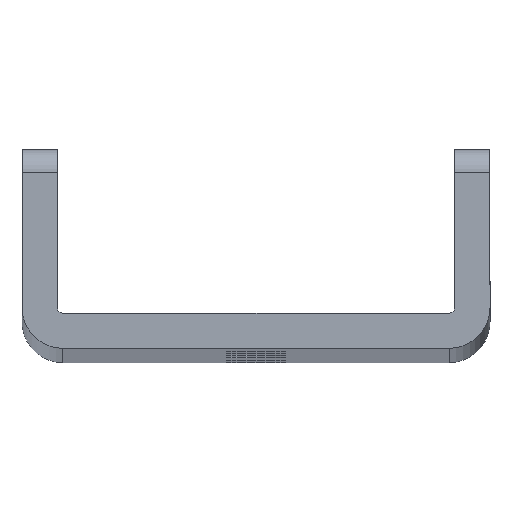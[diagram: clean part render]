
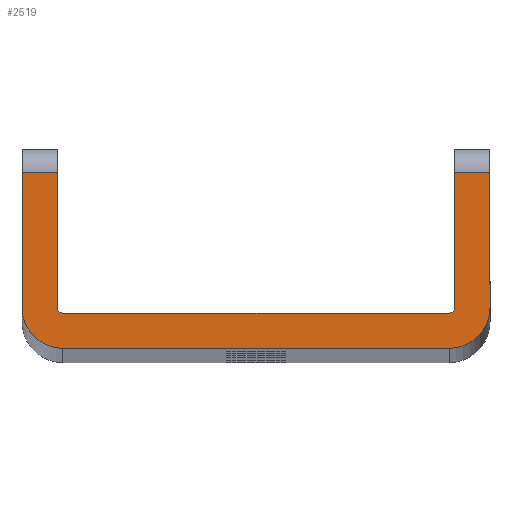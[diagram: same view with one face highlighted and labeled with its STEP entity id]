
A CAD part, top view. The second image highlights one B-rep face of the part: STEP entity #2519.
In plain terms, the highlighted planar face has unit normal (0, 0, 1).
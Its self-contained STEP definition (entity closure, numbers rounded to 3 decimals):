
#79 = CARTESIAN_POINT ( 'NONE',  ( -16.5, 0., 700. ) ) ;
#184 = ORIENTED_EDGE ( 'NONE', *, *, #2489, .T. ) ;
#224 = CARTESIAN_POINT ( 'NONE',  ( 17., 3.5, 700. ) ) ;
#276 = CARTESIAN_POINT ( 'NONE',  ( -17., 17., 700. ) ) ;
#297 = VERTEX_POINT ( 'NONE', #502 ) ;
#329 = DIRECTION ( 'NONE',  ( -1., 0., 0. ) ) ;
#346 = CARTESIAN_POINT ( 'NONE',  ( 17., 3.5, 700. ) ) ;
#349 = LINE ( 'NONE', #224, #3275 ) ;
#391 = DIRECTION ( 'NONE',  ( -1., 0., 0. ) ) ;
#459 = AXIS2_PLACEMENT_3D ( 'NONE', #1371, #2144, #3177 ) ;
#502 = CARTESIAN_POINT ( 'NONE',  ( -20., 3.5, 700. ) ) ;
#539 = VERTEX_POINT ( 'NONE', #624 ) ;
#601 = DIRECTION ( 'NONE',  ( -1., 0., 0. ) ) ;
#614 = CARTESIAN_POINT ( 'NONE',  ( 16.5, 0., 700. ) ) ;
#624 = CARTESIAN_POINT ( 'NONE',  ( 17., 15., 700. ) ) ;
#643 = ORIENTED_EDGE ( 'NONE', *, *, #1169, .T. ) ;
#670 = VERTEX_POINT ( 'NONE', #346 ) ;
#693 = EDGE_CURVE ( 'NONE', #1224, #2869, #1576, .T. ) ;
#712 = EDGE_CURVE ( 'NONE', #1820, #539, #1835, .T. ) ;
#732 = VECTOR ( 'NONE', #3091, 1000. ) ;
#755 = ORIENTED_EDGE ( 'NONE', *, *, #1618, .T. ) ;
#763 = CARTESIAN_POINT ( 'NONE',  ( -20., 15., 700. ) ) ;
#805 = ORIENTED_EDGE ( 'NONE', *, *, #3151, .T. ) ;
#833 = DIRECTION ( 'NONE',  ( 0., -1., 0. ) ) ;
#881 = ORIENTED_EDGE ( 'NONE', *, *, #712, .T. ) ;
#943 = CARTESIAN_POINT ( 'NONE',  ( 16.5, 3., 700. ) ) ;
#1007 = VERTEX_POINT ( 'NONE', #2099 ) ;
#1014 = VECTOR ( 'NONE', #833, 1000. ) ;
#1036 = EDGE_CURVE ( 'NONE', #539, #670, #349, .T. ) ;
#1044 = CARTESIAN_POINT ( 'NONE',  ( 16.5, 3.5, 700. ) ) ;
#1063 = DIRECTION ( 'NONE',  ( -1., 0., 0. ) ) ;
#1072 = CARTESIAN_POINT ( 'NONE',  ( 20., 15., 700. ) ) ;
#1147 = CARTESIAN_POINT ( 'NONE',  ( -16.5, 3., 700. ) ) ;
#1169 = EDGE_CURVE ( 'NONE', #1447, #1274, #1649, .T. ) ;
#1224 = VERTEX_POINT ( 'NONE', #943 ) ;
#1274 = VERTEX_POINT ( 'NONE', #763 ) ;
#1280 = CARTESIAN_POINT ( 'NONE',  ( -16.5, 3.5, 700. ) ) ;
#1294 = VERTEX_POINT ( 'NONE', #2031 ) ;
#1297 = ORIENTED_EDGE ( 'NONE', *, *, #693, .T. ) ;
#1371 = CARTESIAN_POINT ( 'NONE',  ( 16.5, 3.5, 700. ) ) ;
#1374 = CARTESIAN_POINT ( 'NONE',  ( -20., 15., 700. ) ) ;
#1435 = CARTESIAN_POINT ( 'NONE',  ( -16.5, 3.5, 700. ) ) ;
#1447 = VERTEX_POINT ( 'NONE', #2478 ) ;
#1562 = ORIENTED_EDGE ( 'NONE', *, *, #2450, .T. ) ;
#1574 = ORIENTED_EDGE ( 'NONE', *, *, #1036, .T. ) ;
#1576 = LINE ( 'NONE', #1147, #3124 ) ;
#1586 = CIRCLE ( 'NONE', #3277, 0.5 ) ;
#1618 = EDGE_CURVE ( 'NONE', #297, #3035, #2383, .T. ) ;
#1619 = LINE ( 'NONE', #1920, #2902 ) ;
#1649 = LINE ( 'NONE', #1374, #2526 ) ;
#1657 = ORIENTED_EDGE ( 'NONE', *, *, #1933, .T. ) ;
#1659 = VERTEX_POINT ( 'NONE', #2821 ) ;
#1663 = EDGE_CURVE ( 'NONE', #1294, #1659, #1908, .T. ) ;
#1685 = PLANE ( 'NONE',  #2740 ) ;
#1694 = DIRECTION ( 'NONE',  ( 0., 0., 1. ) ) ;
#1772 = VECTOR ( 'NONE', #1966, 1000. ) ;
#1778 = DIRECTION ( 'NONE',  ( 0., 0., 1. ) ) ;
#1820 = VERTEX_POINT ( 'NONE', #1072 ) ;
#1824 = LINE ( 'NONE', #2085, #1014 ) ;
#1835 = LINE ( 'NONE', #3112, #2117 ) ;
#1908 = CIRCLE ( 'NONE', #2651, 3.5 ) ;
#1920 = CARTESIAN_POINT ( 'NONE',  ( 20., 17., 700. ) ) ;
#1933 = EDGE_CURVE ( 'NONE', #1007, #1447, #3288, .T. ) ;
#1966 = DIRECTION ( 'NONE',  ( 1., 0., 0. ) ) ;
#1973 = FACE_OUTER_BOUND ( 'NONE', #2305, .T. ) ;
#1994 = DIRECTION ( 'NONE',  ( 1., 0., 0. ) ) ;
#2031 = CARTESIAN_POINT ( 'NONE',  ( 16.5, 0., 700. ) ) ;
#2085 = CARTESIAN_POINT ( 'NONE',  ( -20., 3.5, 700. ) ) ;
#2099 = CARTESIAN_POINT ( 'NONE',  ( -17., 3.5, 700. ) ) ;
#2117 = VECTOR ( 'NONE', #329, 1000. ) ;
#2144 = DIRECTION ( 'NONE',  ( 0., 0., -1. ) ) ;
#2177 = DIRECTION ( 'NONE',  ( 0., 1., 0. ) ) ;
#2184 = CARTESIAN_POINT ( 'NONE',  ( -16.5, 3., 700. ) ) ;
#2198 = ORIENTED_EDGE ( 'NONE', *, *, #2894, .T. ) ;
#2305 = EDGE_LOOP ( 'NONE', ( #1562, #881, #1574, #184, #1297, #2198, #1657, #643, #805, #755, #2846, #2884 ) ) ;
#2313 = CIRCLE ( 'NONE', #459, 0.5 ) ;
#2383 = CIRCLE ( 'NONE', #3278, 3.5 ) ;
#2450 = EDGE_CURVE ( 'NONE', #1659, #1820, #1619, .T. ) ;
#2478 = CARTESIAN_POINT ( 'NONE',  ( -17., 15., 700. ) ) ;
#2489 = EDGE_CURVE ( 'NONE', #670, #1224, #2313, .T. ) ;
#2490 = DIRECTION ( 'NONE',  ( 1., 0., 0. ) ) ;
#2510 = DIRECTION ( 'NONE',  ( 0., -1., 0. ) ) ;
#2519 = ADVANCED_FACE ( 'NONE', ( #1973 ), #1685, .T. ) ;
#2526 = VECTOR ( 'NONE', #391, 1000. ) ;
#2651 = AXIS2_PLACEMENT_3D ( 'NONE', #1044, #1778, #1063 ) ;
#2740 = AXIS2_PLACEMENT_3D ( 'NONE', #3203, #2991, #2490 ) ;
#2821 = CARTESIAN_POINT ( 'NONE',  ( 20., 3.5, 700. ) ) ;
#2846 = ORIENTED_EDGE ( 'NONE', *, *, #2892, .T. ) ;
#2869 = VERTEX_POINT ( 'NONE', #2184 ) ;
#2880 = LINE ( 'NONE', #614, #1772 ) ;
#2884 = ORIENTED_EDGE ( 'NONE', *, *, #1663, .T. ) ;
#2892 = EDGE_CURVE ( 'NONE', #3035, #1294, #2880, .T. ) ;
#2894 = EDGE_CURVE ( 'NONE', #2869, #1007, #1586, .T. ) ;
#2902 = VECTOR ( 'NONE', #2177, 1000. ) ;
#2991 = DIRECTION ( 'NONE',  ( 0., 0., 1. ) ) ;
#3035 = VERTEX_POINT ( 'NONE', #79 ) ;
#3091 = DIRECTION ( 'NONE',  ( 0., 1., 0. ) ) ;
#3112 = CARTESIAN_POINT ( 'NONE',  ( 17., 15., 700. ) ) ;
#3124 = VECTOR ( 'NONE', #601, 1000. ) ;
#3126 = DIRECTION ( 'NONE',  ( 1., 0., 0. ) ) ;
#3151 = EDGE_CURVE ( 'NONE', #1274, #297, #1824, .T. ) ;
#3177 = DIRECTION ( 'NONE',  ( 1., 0., 0. ) ) ;
#3203 = CARTESIAN_POINT ( 'NONE',  ( -16.5, 3.5, 700. ) ) ;
#3243 = DIRECTION ( 'NONE',  ( 0., 0., -1. ) ) ;
#3275 = VECTOR ( 'NONE', #2510, 1000. ) ;
#3277 = AXIS2_PLACEMENT_3D ( 'NONE', #1435, #3243, #3126 ) ;
#3278 = AXIS2_PLACEMENT_3D ( 'NONE', #1280, #1694, #1994 ) ;
#3288 = LINE ( 'NONE', #276, #732 ) ;
